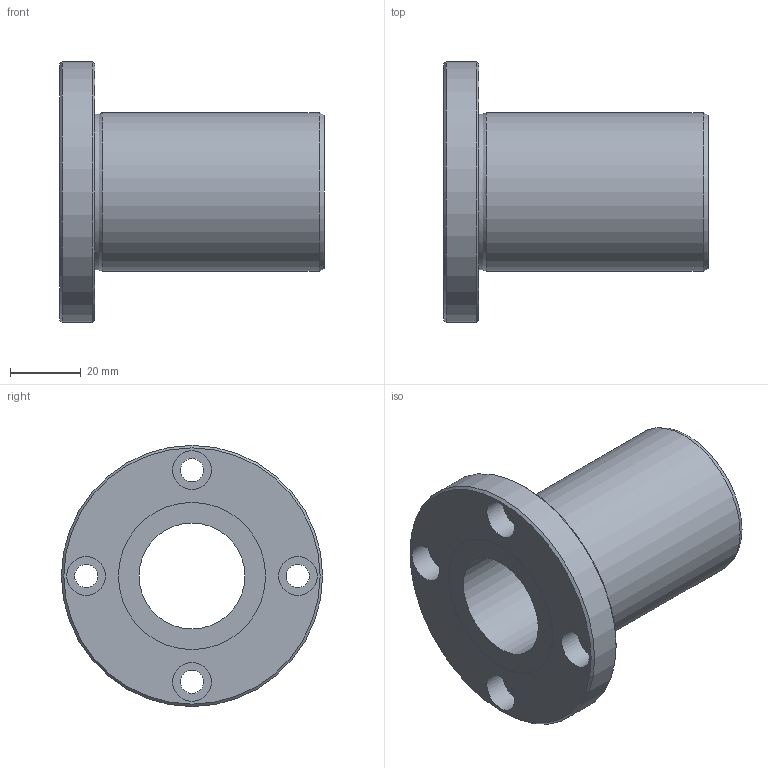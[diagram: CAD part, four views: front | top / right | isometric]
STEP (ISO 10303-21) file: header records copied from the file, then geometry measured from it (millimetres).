
FILE_DESCRIPTION((''),'2;1');
FILE_NAME('D:\製品 (図面)\カタログ用3D\メンテナンスフリー関連\STEP形式\LF-MF\LF30MF.stp','2010-06-01T16:05:41',('Tsuchiya'),(''),'Autodesk Inventor 10','Autodesk Inventor 10','');
FILE_SCHEMA(('AUTOMOTIVE_DESIGN { 1 0 10303 214 1 1 1 1 }'));
Length unit declared in the file: millimetre
Products named in the file (1): LF30MF
Bounding box: 75 x 74 x 74 mm (x, y, z)
Volume: 90002.5 mm3; surface area: 26486.7 mm2
Topology: 1 solids, 1 shells, 26 faces, 47 edges, 30 vertices
Faces by surface type: cylinder 13, plane 9, cone 2, torus 1, bspline 1
Full cylindrical faces by diameter (mm): 6.6 x4, 11 x4, 30 x1, 41.7 x2, 45 x1, 74 x1
Entity records: 665 total; most frequent: CARTESIAN_POINT 149, DIRECTION 112, ORIENTED_EDGE 60, EDGE_LOOP 60, AXIS2_PLACEMENT_3D 56, FACE_BOUND 34, VERTEX_POINT 30, CIRCLE 30
